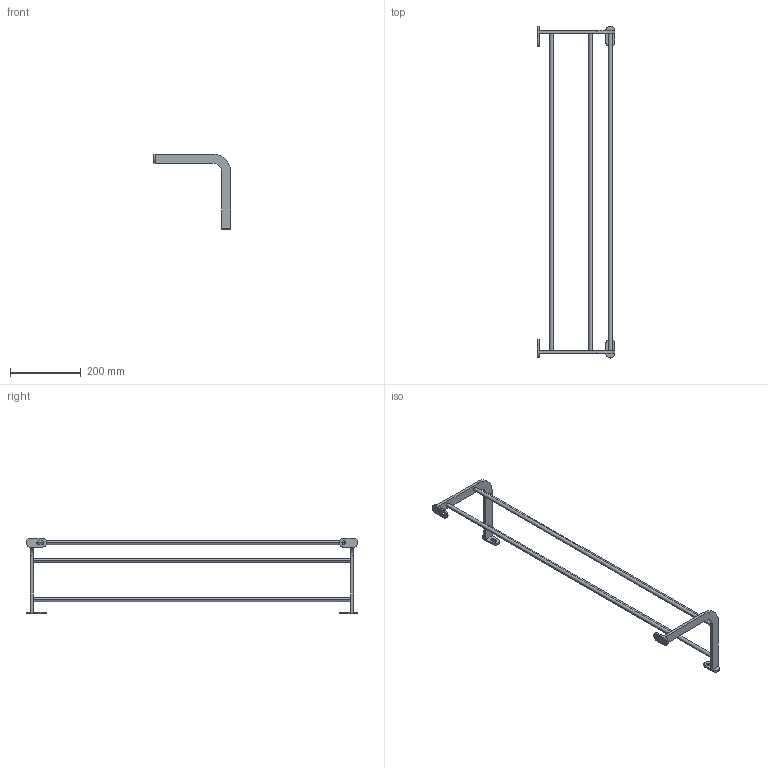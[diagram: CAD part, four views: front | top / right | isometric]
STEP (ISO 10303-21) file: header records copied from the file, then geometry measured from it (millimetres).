
FILE_DESCRIPTION (( 'STEP AP203' ), '1' );
FILE_NAME ('Rundstångräcke hörn 213x213.STEP', '2014-09-26T06:38:28', ( '' ), ( '' ), 'SwSTEP 2.0', 'SolidWorks 2014', '' );
FILE_SCHEMA (( 'CONFIG_CONTROL_DESIGN' ));
Length unit declared in the file: millimetre
Products named in the file (1): Rundst幩gr踄ke h顤n 213x213
Bounding box: 218 x 935 x 213 mm (x, y, z)
Volume: 514297.3 mm3; surface area: 184782.7 mm2
Topology: 1 solids, 1 shells, 56 faces, 148 edges, 96 vertices
Faces by surface type: cylinder 28, plane 28
Entity records: 1849 total; most frequent: DIRECTION 318, CARTESIAN_POINT 301, ORIENTED_EDGE 296, EDGE_CURVE 148, AXIS2_PLACEMENT_3D 113, VERTEX_POINT 96, VECTOR 92, LINE 92
